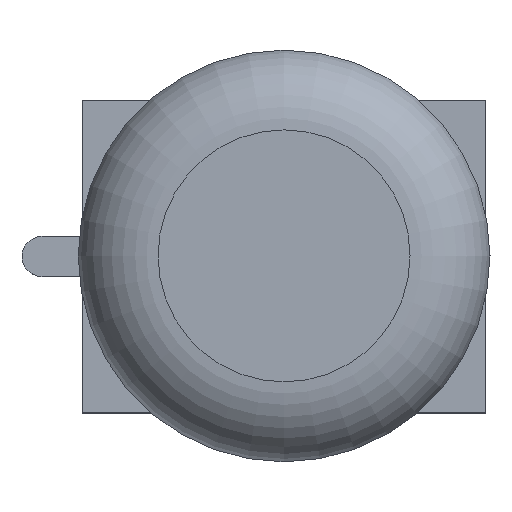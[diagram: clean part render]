
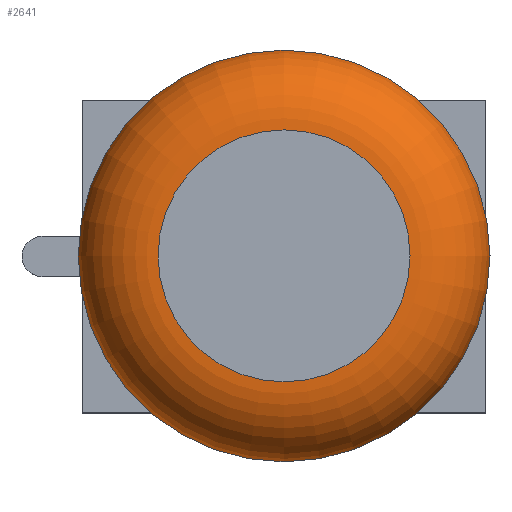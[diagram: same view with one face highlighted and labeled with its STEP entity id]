
A CAD part, top view. The second image highlights one B-rep face of the part: STEP entity #2641.
In plain terms, the highlighted toroidal (fillet/blend) face has major radius 12.5 mm and minor radius 8 mm.
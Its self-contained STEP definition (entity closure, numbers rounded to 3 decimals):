
#14=TOROIDAL_SURFACE('',#2909,12.5,8.);
#52=FACE_BOUND('',#551,.T.);
#172=CIRCLE('',#2906,20.418);
#174=CIRCLE('',#2910,12.5);
#393=FACE_OUTER_BOUND('',#550,.T.);
#550=EDGE_LOOP('',(#2402));
#551=EDGE_LOOP('',(#2403));
#1274=VERTEX_POINT('',#4884);
#1276=VERTEX_POINT('',#4890);
#1650=EDGE_CURVE('',#1274,#1274,#172,.T.);
#1652=EDGE_CURVE('',#1276,#1276,#174,.T.);
#2402=ORIENTED_EDGE('',*,*,#1650,.F.);
#2403=ORIENTED_EDGE('',*,*,#1652,.T.);
#2641=ADVANCED_FACE('',(#393,#52),#14,.T.);
#2906=AXIS2_PLACEMENT_3D('',#4885,#3656,#3657);
#2909=AXIS2_PLACEMENT_3D('',#4889,#3662,#3663);
#2910=AXIS2_PLACEMENT_3D('',#4891,#3664,#3665);
#3656=DIRECTION('center_axis',(0.,0.,-1.));
#3657=DIRECTION('ref_axis',(-1.,0.,0.));
#3662=DIRECTION('center_axis',(0.,0.,1.));
#3663=DIRECTION('ref_axis',(1.,0.,0.));
#3664=DIRECTION('center_axis',(0.,0.,-1.));
#3665=DIRECTION('ref_axis',(-1.,0.,0.));
#4884=CARTESIAN_POINT('',(20.418,0.,68.143));
#4885=CARTESIAN_POINT('Origin',(0.,0.,68.143));
#4889=CARTESIAN_POINT('Origin',(0.,0.,67.));
#4890=CARTESIAN_POINT('',(12.5,0.,75.));
#4891=CARTESIAN_POINT('Origin',(0.,0.,75.));
